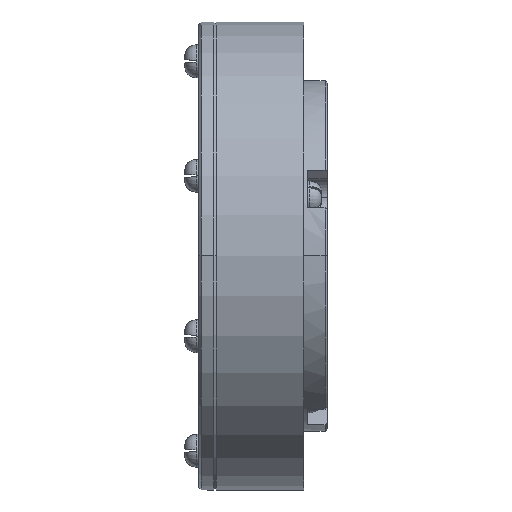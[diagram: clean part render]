
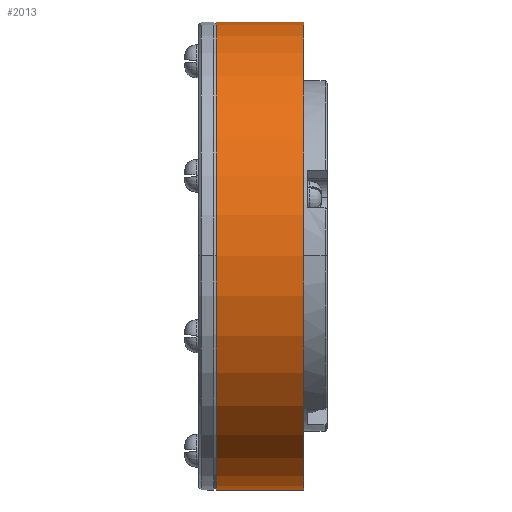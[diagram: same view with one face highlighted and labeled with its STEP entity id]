
A CAD part, top view. The second image highlights one B-rep face of the part: STEP entity #2013.
In plain terms, the highlighted cylindrical face has radius 20 mm (diameter 40 mm), a partial arc.
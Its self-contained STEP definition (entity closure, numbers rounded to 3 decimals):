
#112 = CARTESIAN_POINT ( 'NONE',  ( 4.8, 0., 0. ) ) ;
#1221 = DIRECTION ( 'NONE',  ( 0., -1., 0. ) ) ;
#2013 = ADVANCED_FACE ( 'NONE', ( #10648 ), #2212, .T. ) ;
#2136 = LINE ( 'NONE', #4283, #12987 ) ;
#2212 = CYLINDRICAL_SURFACE ( 'NONE', #13148, 20. ) ;
#2654 = CARTESIAN_POINT ( 'NONE',  ( -7.4, -20., 0. ) ) ;
#2945 = AXIS2_PLACEMENT_3D ( 'NONE', #112, #7591, #1221 ) ;
#3365 = EDGE_LOOP ( 'NONE', ( #13253, #12613, #11187, #10867 ) ) ;
#3448 = VERTEX_POINT ( 'NONE', #4739 ) ;
#3512 = VERTEX_POINT ( 'NONE', #4921 ) ;
#3817 = EDGE_CURVE ( 'NONE', #3448, #5427, #11123, .T. ) ;
#4283 = CARTESIAN_POINT ( 'NONE',  ( -7.4, 20., 0. ) ) ;
#4367 = CIRCLE ( 'NONE', #8150, 20. ) ;
#4739 = CARTESIAN_POINT ( 'NONE',  ( 4.8, -20., 0. ) ) ;
#4921 = CARTESIAN_POINT ( 'NONE',  ( -2.7, 20., 0. ) ) ;
#4958 = VERTEX_POINT ( 'NONE', #12916 ) ;
#5256 = CARTESIAN_POINT ( 'NONE',  ( 4.8, 20., 0. ) ) ;
#5427 = VERTEX_POINT ( 'NONE', #5256 ) ;
#5516 = DIRECTION ( 'NONE',  ( -1., 0., 0. ) ) ;
#5878 = CARTESIAN_POINT ( 'NONE',  ( -7.4, 0., 0. ) ) ;
#5966 = DIRECTION ( 'NONE',  ( 0., -1., 0. ) ) ;
#6025 = DIRECTION ( 'NONE',  ( -1., 0., 0. ) ) ;
#6899 = EDGE_CURVE ( 'NONE', #4958, #3512, #4367, .T. ) ;
#7591 = DIRECTION ( 'NONE',  ( -1., 0., 0. ) ) ;
#8150 = AXIS2_PLACEMENT_3D ( 'NONE', #11760, #5516, #12782 ) ;
#8918 = DIRECTION ( 'NONE',  ( -1., 0., 0. ) ) ;
#9740 = VECTOR ( 'NONE', #8918, 1000. ) ;
#10648 = FACE_OUTER_BOUND ( 'NONE', #3365, .T. ) ;
#10867 = ORIENTED_EDGE ( 'NONE', *, *, #12752, .F. ) ;
#11123 = CIRCLE ( 'NONE', #2945, 20. ) ;
#11187 = ORIENTED_EDGE ( 'NONE', *, *, #6899, .F. ) ;
#11385 = LINE ( 'NONE', #2654, #9740 ) ;
#11589 = DIRECTION ( 'NONE',  ( -1., 0., 0. ) ) ;
#11760 = CARTESIAN_POINT ( 'NONE',  ( -2.7, 0., 0. ) ) ;
#12491 = EDGE_CURVE ( 'NONE', #5427, #3512, #2136, .T. ) ;
#12613 = ORIENTED_EDGE ( 'NONE', *, *, #12491, .T. ) ;
#12752 = EDGE_CURVE ( 'NONE', #3448, #4958, #11385, .T. ) ;
#12782 = DIRECTION ( 'NONE',  ( 0., -1., 0. ) ) ;
#12916 = CARTESIAN_POINT ( 'NONE',  ( -2.7, -20., 0. ) ) ;
#12987 = VECTOR ( 'NONE', #11589, 1000. ) ;
#13148 = AXIS2_PLACEMENT_3D ( 'NONE', #5878, #6025, #5966 ) ;
#13253 = ORIENTED_EDGE ( 'NONE', *, *, #3817, .T. ) ;
